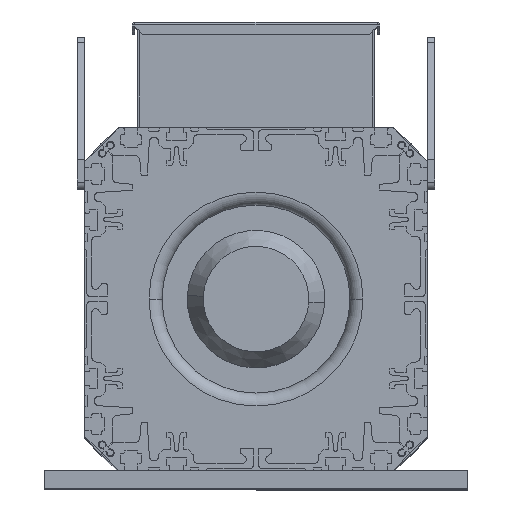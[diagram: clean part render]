
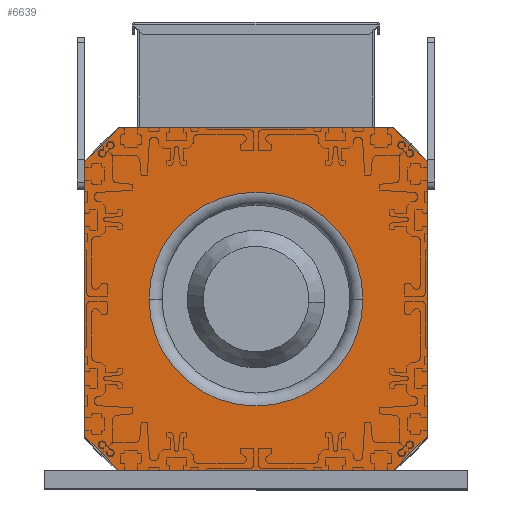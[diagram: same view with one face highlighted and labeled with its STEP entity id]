
A CAD part, top view. The second image highlights one B-rep face of the part: STEP entity #6639.
In plain terms, the highlighted planar face has unit normal (0, 0, 1) as drawn and (-1, 0, 0) by its records, which use the part's own axes.
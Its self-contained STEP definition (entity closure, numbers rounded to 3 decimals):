
#108 = LINE ( 'NONE', #41202, #80566 ) ;
#802 = VERTEX_POINT ( 'NONE', #21236 ) ;
#2203 = ORIENTED_EDGE ( 'NONE', *, *, #103940, .F. ) ;
#2259 = DIRECTION ( 'NONE',  ( 0., 0., 1. ) ) ;
#5824 = VECTOR ( 'NONE', #69467, 1000. ) ;
#5898 = EDGE_CURVE ( 'NONE', #31768, #100702, #17445, .T. ) ;
#5902 = CARTESIAN_POINT ( 'NONE',  ( 0., 0., 70. ) ) ;
#6639 = ADVANCED_FACE ( 'NONE', ( #69651, #29155 ), #12065, .F. ) ;
#7094 = AXIS2_PLACEMENT_3D ( 'NONE', #16723, #73761, #65767 ) ;
#7216 = AXIS2_PLACEMENT_3D ( 'NONE', #68977, #35427, #67934 ) ;
#8038 = VERTEX_POINT ( 'NONE', #45981 ) ;
#10733 = CARTESIAN_POINT ( 'NONE',  ( 0., 155., -112. ) ) ;
#10798 = CARTESIAN_POINT ( 'NONE',  ( 0., 112., 0. ) ) ;
#12065 = PLANE ( 'NONE',  #14534 ) ;
#13125 = ORIENTED_EDGE ( 'NONE', *, *, #39969, .F. ) ;
#14534 = AXIS2_PLACEMENT_3D ( 'NONE', #45132, #60605, #94119 ) ;
#16723 = CARTESIAN_POINT ( 'NONE',  ( 0., 0., 0. ) ) ;
#17161 = EDGE_CURVE ( 'NONE', #36446, #63137, #26929, .T. ) ;
#17445 = CIRCLE ( 'NONE', #7216, 70. ) ;
#21236 = CARTESIAN_POINT ( 'NONE',  ( 0., 112., -90. ) ) ;
#21312 = CARTESIAN_POINT ( 'NONE',  ( 0., -112., -90. ) ) ;
#24593 = EDGE_CURVE ( 'NONE', #81089, #8038, #101415, .T. ) ;
#24865 = VECTOR ( 'NONE', #67645, 1000. ) ;
#26929 = LINE ( 'NONE', #101355, #102774 ) ;
#28209 = CARTESIAN_POINT ( 'NONE',  ( 0., 90., 112. ) ) ;
#28880 = LINE ( 'NONE', #10733, #67240 ) ;
#29155 = FACE_OUTER_BOUND ( 'NONE', #69575, .T. ) ;
#29809 = VECTOR ( 'NONE', #67111, 1000. ) ;
#31768 = VERTEX_POINT ( 'NONE', #67328 ) ;
#33787 = LINE ( 'NONE', #10798, #35498 ) ;
#35322 = DIRECTION ( 'NONE',  ( 0., 0.707, -0.707 ) ) ;
#35427 = DIRECTION ( 'NONE',  ( -1., 0., 0. ) ) ;
#35498 = VECTOR ( 'NONE', #2259, 1000. ) ;
#36446 = VERTEX_POINT ( 'NONE', #21312 ) ;
#38894 = ORIENTED_EDGE ( 'NONE', *, *, #78315, .F. ) ;
#39969 = EDGE_CURVE ( 'NONE', #71913, #58685, #74610, .T. ) ;
#40886 = EDGE_CURVE ( 'NONE', #63137, #82121, #28880, .T. ) ;
#41202 = CARTESIAN_POINT ( 'NONE',  ( 0., 155., 112. ) ) ;
#42607 = CARTESIAN_POINT ( 'NONE',  ( 0., -112., 0. ) ) ;
#45132 = CARTESIAN_POINT ( 'NONE',  ( 0., 155., 0. ) ) ;
#45981 = CARTESIAN_POINT ( 'NONE',  ( 0., -112., 90. ) ) ;
#46675 = VECTOR ( 'NONE', #82589, 1000. ) ;
#47723 = ORIENTED_EDGE ( 'NONE', *, *, #71124, .F. ) ;
#49934 = CARTESIAN_POINT ( 'NONE',  ( 0., -90., -112. ) ) ;
#51442 = CIRCLE ( 'NONE', #7094, 70. ) ;
#52174 = LINE ( 'NONE', #69752, #24865 ) ;
#53960 = EDGE_CURVE ( 'NONE', #58685, #81089, #108, .T. ) ;
#58685 = VERTEX_POINT ( 'NONE', #68423 ) ;
#60605 = DIRECTION ( 'NONE',  ( 1., 0., 0. ) ) ;
#63137 = VERTEX_POINT ( 'NONE', #49934 ) ;
#63297 = CARTESIAN_POINT ( 'NONE',  ( 0., 112., 90. ) ) ;
#65767 = DIRECTION ( 'NONE',  ( 0., 0., 1. ) ) ;
#66585 = EDGE_LOOP ( 'NONE', ( #47723, #101938 ) ) ;
#67111 = DIRECTION ( 'NONE',  ( 0., 0., -1. ) ) ;
#67240 = VECTOR ( 'NONE', #85359, 1000. ) ;
#67328 = CARTESIAN_POINT ( 'NONE',  ( 0., 0., -70. ) ) ;
#67645 = DIRECTION ( 'NONE',  ( 0., 0.707, 0.707 ) ) ;
#67934 = DIRECTION ( 'NONE',  ( 0., 0., 1. ) ) ;
#68423 = CARTESIAN_POINT ( 'NONE',  ( 0., 90., 112. ) ) ;
#68977 = CARTESIAN_POINT ( 'NONE',  ( 0., 0., 0. ) ) ;
#69467 = DIRECTION ( 'NONE',  ( 0., -0.707, -0.707 ) ) ;
#69575 = EDGE_LOOP ( 'NONE', ( #89605, #13125, #2203, #38894, #83657, #105076, #101125, #93493 ) ) ;
#69651 = FACE_BOUND ( 'NONE', #66585, .T. ) ;
#69752 = CARTESIAN_POINT ( 'NONE',  ( 0., 112., -90. ) ) ;
#69986 = CARTESIAN_POINT ( 'NONE',  ( 0., -112., 90. ) ) ;
#71124 = EDGE_CURVE ( 'NONE', #100702, #31768, #51442, .T. ) ;
#71913 = VERTEX_POINT ( 'NONE', #63297 ) ;
#73704 = DIRECTION ( 'NONE',  ( 0., -1., 0. ) ) ;
#73761 = DIRECTION ( 'NONE',  ( -1., 0., 0. ) ) ;
#74610 = LINE ( 'NONE', #28209, #46675 ) ;
#76824 = EDGE_CURVE ( 'NONE', #8038, #36446, #92639, .T. ) ;
#78315 = EDGE_CURVE ( 'NONE', #82121, #802, #52174, .T. ) ;
#80566 = VECTOR ( 'NONE', #73704, 1000. ) ;
#81089 = VERTEX_POINT ( 'NONE', #84046 ) ;
#82121 = VERTEX_POINT ( 'NONE', #95549 ) ;
#82589 = DIRECTION ( 'NONE',  ( 0., -0.707, 0.707 ) ) ;
#83657 = ORIENTED_EDGE ( 'NONE', *, *, #40886, .F. ) ;
#84046 = CARTESIAN_POINT ( 'NONE',  ( 0., -90., 112. ) ) ;
#85359 = DIRECTION ( 'NONE',  ( 0., 1., 0. ) ) ;
#89605 = ORIENTED_EDGE ( 'NONE', *, *, #53960, .F. ) ;
#92639 = LINE ( 'NONE', #42607, #29809 ) ;
#93493 = ORIENTED_EDGE ( 'NONE', *, *, #24593, .F. ) ;
#94119 = DIRECTION ( 'NONE',  ( 0., 0., -1. ) ) ;
#95549 = CARTESIAN_POINT ( 'NONE',  ( 0., 90., -112. ) ) ;
#100702 = VERTEX_POINT ( 'NONE', #5902 ) ;
#101125 = ORIENTED_EDGE ( 'NONE', *, *, #76824, .F. ) ;
#101355 = CARTESIAN_POINT ( 'NONE',  ( 0., -90., -112. ) ) ;
#101415 = LINE ( 'NONE', #69986, #5824 ) ;
#101938 = ORIENTED_EDGE ( 'NONE', *, *, #5898, .F. ) ;
#102774 = VECTOR ( 'NONE', #35322, 1000. ) ;
#103940 = EDGE_CURVE ( 'NONE', #802, #71913, #33787, .T. ) ;
#105076 = ORIENTED_EDGE ( 'NONE', *, *, #17161, .F. ) ;
